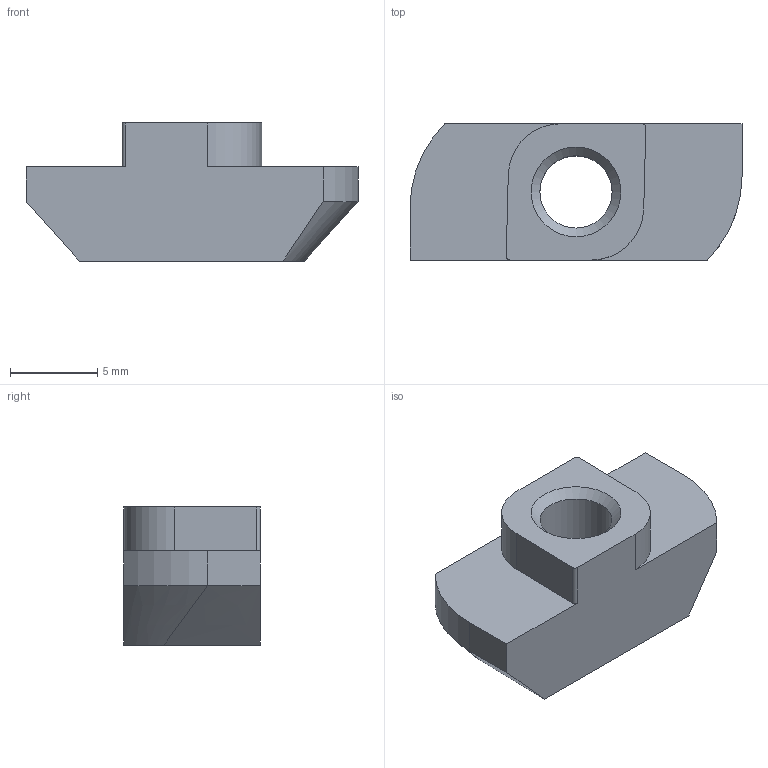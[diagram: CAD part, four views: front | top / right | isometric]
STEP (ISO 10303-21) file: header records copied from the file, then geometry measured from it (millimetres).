
FILE_DESCRIPTION((''),'2;1');
FILE_NAME('E:\catalogue and flyer\Profile catalogue 2015\Accessories JE info\Accessories-JE step file 31MAr16\JE-RN5-8_4040.stp','2016-03-31T16:35:09',('h029'),(''),'Autodesk Inventor 11','Autodesk Inventor 11','');
FILE_SCHEMA(('AUTOMOTIVE_DESIGN { 1 0 10303 214 1 1 1 1 }'));
Length unit declared in the file: millimetre
Products named in the file (1): JE-RN5-8_4040
Bounding box: 19 x 7.8 x 7.9 mm (x, y, z)
Volume: 727.4 mm3; surface area: 654.1 mm2
Topology: 1 solids, 1 shells, 22 faces, 58 edges, 38 vertices
Faces by surface type: plane 10, cylinder 6, bspline 5, cone 1
Entity records: 821 total; most frequent: CARTESIAN_POINT 277, ORIENTED_EDGE 110, DIRECTION 99, EDGE_CURVE 55, VERTEX_POINT 37, AXIS2_PLACEMENT_3D 33, VECTOR 33, LINE 33
